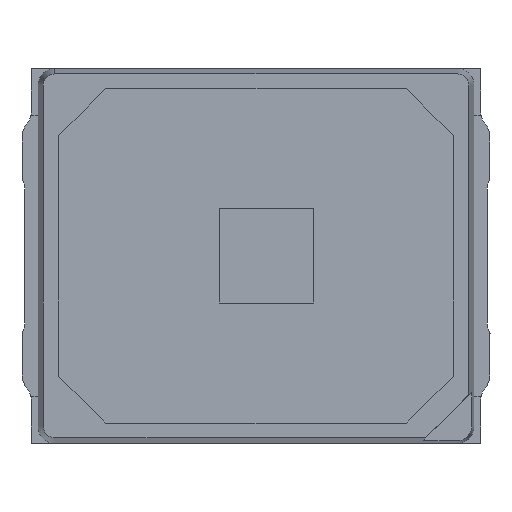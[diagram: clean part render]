
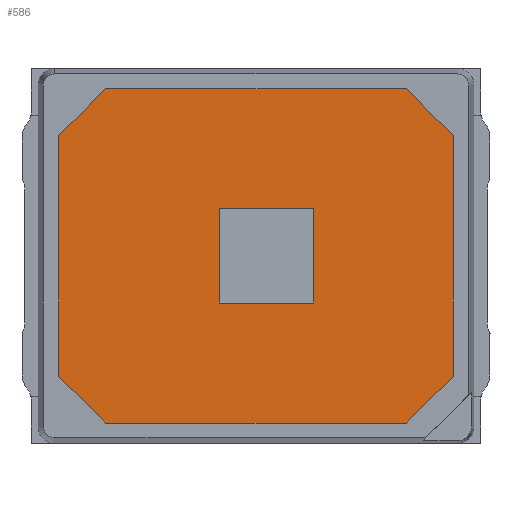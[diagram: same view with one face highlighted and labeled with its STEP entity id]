
A CAD part, top view. The second image highlights one B-rep face of the part: STEP entity #586.
In plain terms, the highlighted planar face has unit normal (0, 0, 1).
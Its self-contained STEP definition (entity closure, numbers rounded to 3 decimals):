
#45 = CARTESIAN_POINT ( 'NONE',  ( 1.125, -1.25, 0.7 ) ) ;
#170 = CARTESIAN_POINT ( 'NONE',  ( 1.125, -1.25, 0.7 ) ) ;
#292 = VERTEX_POINT ( 'NONE', #3405 ) ;
#319 = EDGE_CURVE ( 'NONE', #765, #5794, #720, .T. ) ;
#586 = ADVANCED_FACE ( 'NONE', ( #8453, #1153 ), #7222, .T. ) ;
#598 = EDGE_CURVE ( 'NONE', #3656, #3140, #4445, .T. ) ;
#628 = DIRECTION ( 'NONE',  ( 0., -1., 0. ) ) ;
#653 = DIRECTION ( 'NONE',  ( 0., 1., 0. ) ) ;
#686 = VECTOR ( 'NONE', #653, 1000. ) ;
#720 = LINE ( 'NONE', #7361, #7081 ) ;
#736 = ORIENTED_EDGE ( 'NONE', *, *, #5679, .F. ) ;
#765 = VERTEX_POINT ( 'NONE', #5578 ) ;
#968 = EDGE_CURVE ( 'NONE', #1108, #2086, #3028, .T. ) ;
#1065 = EDGE_CURVE ( 'NONE', #3435, #3656, #2553, .T. ) ;
#1108 = VERTEX_POINT ( 'NONE', #2007 ) ;
#1153 = FACE_OUTER_BOUND ( 'NONE', #2475, .T. ) ;
#1224 = CARTESIAN_POINT ( 'NONE',  ( -1.475, -0.9, 0.7 ) ) ;
#1310 = CARTESIAN_POINT ( 'NONE',  ( 0.433, -0.352, 0.7 ) ) ;
#1480 = VECTOR ( 'NONE', #4484, 1000. ) ;
#1481 = CARTESIAN_POINT ( 'NONE',  ( -1.475, 0.9, 0.7 ) ) ;
#1572 = ORIENTED_EDGE ( 'NONE', *, *, #598, .T. ) ;
#1578 = ORIENTED_EDGE ( 'NONE', *, *, #5644, .F. ) ;
#1704 = CARTESIAN_POINT ( 'NONE',  ( -1.475, 0.9, 0.7 ) ) ;
#1720 = CARTESIAN_POINT ( 'NONE',  ( 0., 0., 0.7 ) ) ;
#1773 = ORIENTED_EDGE ( 'NONE', *, *, #3982, .F. ) ;
#1775 = VERTEX_POINT ( 'NONE', #5137 ) ;
#1971 = EDGE_CURVE ( 'NONE', #1775, #292, #6737, .T. ) ;
#2007 = CARTESIAN_POINT ( 'NONE',  ( 1.125, 1.25, 0.7 ) ) ;
#2052 = CARTESIAN_POINT ( 'NONE',  ( -1.475, -0.9, 0.7 ) ) ;
#2069 = ORIENTED_EDGE ( 'NONE', *, *, #2464, .T. ) ;
#2086 = VERTEX_POINT ( 'NONE', #6818 ) ;
#2174 = VECTOR ( 'NONE', #6693, 1000. ) ;
#2296 = DIRECTION ( 'NONE',  ( -1., 0., 0. ) ) ;
#2366 = CARTESIAN_POINT ( 'NONE',  ( 1.125, 1.25, 0.7 ) ) ;
#2464 = EDGE_CURVE ( 'NONE', #2086, #6405, #6104, .T. ) ;
#2468 = ORIENTED_EDGE ( 'NONE', *, *, #3649, .T. ) ;
#2475 = EDGE_LOOP ( 'NONE', ( #2069, #2468, #8670, #1572, #5250, #6479, #4614, #2914 ) ) ;
#2553 = LINE ( 'NONE', #1224, #2174 ) ;
#2668 = VECTOR ( 'NONE', #3540, 1000. ) ;
#2776 = DIRECTION ( 'NONE',  ( 0.707, 0.707, 0. ) ) ;
#2914 = ORIENTED_EDGE ( 'NONE', *, *, #968, .T. ) ;
#3028 = LINE ( 'NONE', #2366, #1480 ) ;
#3140 = VERTEX_POINT ( 'NONE', #170 ) ;
#3405 = CARTESIAN_POINT ( 'NONE',  ( 1.475, 0.9, 0.7 ) ) ;
#3435 = VERTEX_POINT ( 'NONE', #2052 ) ;
#3504 = VECTOR ( 'NONE', #5552, 1000. ) ;
#3527 = EDGE_LOOP ( 'NONE', ( #736, #1773, #1578, #8582 ) ) ;
#3540 = DIRECTION ( 'NONE',  ( -0.707, 0.707, 0. ) ) ;
#3613 = LINE ( 'NONE', #45, #7040 ) ;
#3645 = VECTOR ( 'NONE', #2296, 1000. ) ;
#3649 = EDGE_CURVE ( 'NONE', #6405, #3435, #7035, .T. ) ;
#3656 = VERTEX_POINT ( 'NONE', #7643 ) ;
#3699 = DIRECTION ( 'NONE',  ( 1., 0., 0. ) ) ;
#3982 = EDGE_CURVE ( 'NONE', #5169, #6230, #7339, .T. ) ;
#3988 = DIRECTION ( 'NONE',  ( 0., 1., 0. ) ) ;
#4118 = CARTESIAN_POINT ( 'NONE',  ( 0.433, -0.352, 0.7 ) ) ;
#4192 = LINE ( 'NONE', #4322, #2668 ) ;
#4242 = LINE ( 'NONE', #8242, #3645 ) ;
#4280 = AXIS2_PLACEMENT_3D ( 'NONE', #1720, #4402, #3699 ) ;
#4322 = CARTESIAN_POINT ( 'NONE',  ( 1.475, 0.9, 0.7 ) ) ;
#4402 = DIRECTION ( 'NONE',  ( 0., 0., 1. ) ) ;
#4445 = LINE ( 'NONE', #5816, #8634 ) ;
#4484 = DIRECTION ( 'NONE',  ( -1., 0., 0. ) ) ;
#4487 = VECTOR ( 'NONE', #8314, 1000. ) ;
#4614 = ORIENTED_EDGE ( 'NONE', *, *, #5791, .T. ) ;
#4696 = CARTESIAN_POINT ( 'NONE',  ( 1.475, -0.9, 0.7 ) ) ;
#4746 = DIRECTION ( 'NONE',  ( 1., 0., 0. ) ) ;
#4778 = CARTESIAN_POINT ( 'NONE',  ( -1.125, 1.25, 0.7 ) ) ;
#5110 = CARTESIAN_POINT ( 'NONE',  ( -0.272, -0.352, 0.7 ) ) ;
#5137 = CARTESIAN_POINT ( 'NONE',  ( 1.475, -0.9, 0.7 ) ) ;
#5169 = VERTEX_POINT ( 'NONE', #4118 ) ;
#5250 = ORIENTED_EDGE ( 'NONE', *, *, #8525, .T. ) ;
#5383 = LINE ( 'NONE', #8295, #3504 ) ;
#5552 = DIRECTION ( 'NONE',  ( 1., 0., 0. ) ) ;
#5578 = CARTESIAN_POINT ( 'NONE',  ( -0.272, 0.353, 0.7 ) ) ;
#5609 = VECTOR ( 'NONE', #3988, 1000. ) ;
#5644 = EDGE_CURVE ( 'NONE', #5794, #5169, #5383, .T. ) ;
#5679 = EDGE_CURVE ( 'NONE', #6230, #765, #4242, .T. ) ;
#5791 = EDGE_CURVE ( 'NONE', #292, #1108, #4192, .T. ) ;
#5794 = VERTEX_POINT ( 'NONE', #5110 ) ;
#5814 = CARTESIAN_POINT ( 'NONE',  ( 0.433, 0.353, 0.7 ) ) ;
#5816 = CARTESIAN_POINT ( 'NONE',  ( -1.125, -1.25, 0.7 ) ) ;
#6104 = LINE ( 'NONE', #4778, #7974 ) ;
#6230 = VERTEX_POINT ( 'NONE', #5814 ) ;
#6405 = VERTEX_POINT ( 'NONE', #1481 ) ;
#6479 = ORIENTED_EDGE ( 'NONE', *, *, #1971, .T. ) ;
#6693 = DIRECTION ( 'NONE',  ( 0.707, -0.707, 0. ) ) ;
#6737 = LINE ( 'NONE', #4696, #686 ) ;
#6818 = CARTESIAN_POINT ( 'NONE',  ( -1.125, 1.25, 0.7 ) ) ;
#6935 = DIRECTION ( 'NONE',  ( -0.707, -0.707, 0. ) ) ;
#7035 = LINE ( 'NONE', #1704, #4487 ) ;
#7040 = VECTOR ( 'NONE', #2776, 1000. ) ;
#7081 = VECTOR ( 'NONE', #628, 1000. ) ;
#7222 = PLANE ( 'NONE',  #4280 ) ;
#7339 = LINE ( 'NONE', #1310, #5609 ) ;
#7361 = CARTESIAN_POINT ( 'NONE',  ( -0.272, -0.352, 0.7 ) ) ;
#7643 = CARTESIAN_POINT ( 'NONE',  ( -1.125, -1.25, 0.7 ) ) ;
#7974 = VECTOR ( 'NONE', #6935, 1000. ) ;
#8242 = CARTESIAN_POINT ( 'NONE',  ( 0.433, 0.353, 0.7 ) ) ;
#8295 = CARTESIAN_POINT ( 'NONE',  ( 0.433, -0.352, 0.7 ) ) ;
#8314 = DIRECTION ( 'NONE',  ( 0., -1., 0. ) ) ;
#8453 = FACE_BOUND ( 'NONE', #3527, .T. ) ;
#8525 = EDGE_CURVE ( 'NONE', #3140, #1775, #3613, .T. ) ;
#8582 = ORIENTED_EDGE ( 'NONE', *, *, #319, .F. ) ;
#8634 = VECTOR ( 'NONE', #4746, 1000. ) ;
#8670 = ORIENTED_EDGE ( 'NONE', *, *, #1065, .T. ) ;
